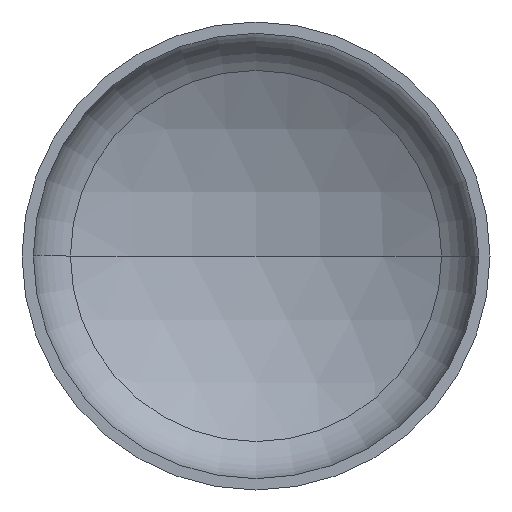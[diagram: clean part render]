
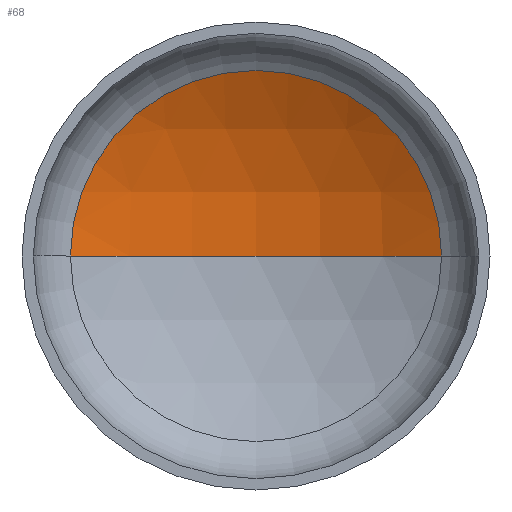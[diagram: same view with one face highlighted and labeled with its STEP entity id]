
A CAD part, front view. The second image highlights one B-rep face of the part: STEP entity #68.
In plain terms, the highlighted spherical face has radius 560 mm.
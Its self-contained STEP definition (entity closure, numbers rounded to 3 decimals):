
#4 = ORIENTED_EDGE ( 'NONE', *, *, #333, .F. ) ;
#9 = EDGE_LOOP ( 'NONE', ( #4, #241, #110 ) ) ;
#10 = AXIS2_PLACEMENT_3D ( 'NONE', #391, #314, #202 ) ;
#14 = AXIS2_PLACEMENT_3D ( 'NONE', #155, #183, #184 ) ;
#20 = VERTEX_POINT ( 'NONE', #269 ) ;
#32 = AXIS2_PLACEMENT_3D ( 'NONE', #151, #154, #158 ) ;
#47 = CIRCLE ( 'NONE', #10, 560. ) ;
#68 = ADVANCED_FACE ( 'NONE', ( #361 ), #298, .F. ) ;
#78 = CIRCLE ( 'NONE', #32, 560. ) ;
#81 = VERTEX_POINT ( 'NONE', #304 ) ;
#85 = VERTEX_POINT ( 'NONE', #248 ) ;
#103 = AXIS2_PLACEMENT_3D ( 'NONE', #258, #280, #257 ) ;
#110 = ORIENTED_EDGE ( 'NONE', *, *, #348, .T. ) ;
#151 = CARTESIAN_POINT ( 'NONE',  ( 0., -335.859, 0. ) ) ;
#154 = DIRECTION ( 'NONE',  ( 0., 0., 1. ) ) ;
#155 = CARTESIAN_POINT ( 'NONE',  ( 0., 150.543, 0. ) ) ;
#158 = DIRECTION ( 'NONE',  ( 1., 0., 0. ) ) ;
#183 = DIRECTION ( 'NONE',  ( 0., -1., 0. ) ) ;
#184 = DIRECTION ( 'NONE',  ( 1., 0., 0. ) ) ;
#202 = DIRECTION ( 'NONE',  ( -1., 0., 0. ) ) ;
#241 = ORIENTED_EDGE ( 'NONE', *, *, #350, .T. ) ;
#245 = CIRCLE ( 'NONE', #14, 277.511 ) ;
#248 = CARTESIAN_POINT ( 'NONE',  ( 0., 224.141, 0. ) ) ;
#257 = DIRECTION ( 'NONE',  ( -1., 0., 0. ) ) ;
#258 = CARTESIAN_POINT ( 'NONE',  ( 0., -335.859, 0. ) ) ;
#269 = CARTESIAN_POINT ( 'NONE',  ( -277.511, 150.543, 0. ) ) ;
#280 = DIRECTION ( 'NONE',  ( 0., 0., -1. ) ) ;
#298 = SPHERICAL_SURFACE ( 'NONE', #103, 560. ) ;
#304 = CARTESIAN_POINT ( 'NONE',  ( 277.511, 150.543, 0. ) ) ;
#314 = DIRECTION ( 'NONE',  ( 0., 0., -1. ) ) ;
#333 = EDGE_CURVE ( 'NONE', #85, #20, #78, .T. ) ;
#348 = EDGE_CURVE ( 'NONE', #81, #20, #245, .T. ) ;
#350 = EDGE_CURVE ( 'NONE', #85, #81, #47, .T. ) ;
#361 = FACE_OUTER_BOUND ( 'NONE', #9, .T. ) ;
#391 = CARTESIAN_POINT ( 'NONE',  ( 0., -335.859, 0. ) ) ;
